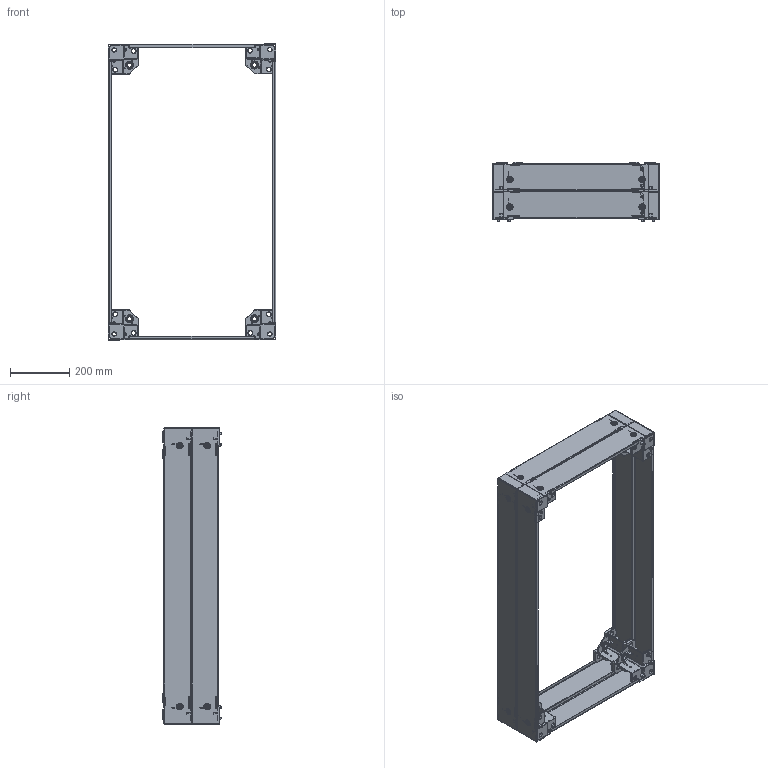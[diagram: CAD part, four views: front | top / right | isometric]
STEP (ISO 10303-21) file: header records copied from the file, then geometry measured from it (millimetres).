
FILE_DESCRIPTION (( 'STEP AP203' ), '1' );
FILE_NAME ('p2bp2106.STEP', '2018-03-05T14:57:29', ( '' ), ( '' ), 'SwSTEP 2.0', 'SolidWorks 2014', '' );
FILE_SCHEMA (( 'CONFIG_CONTROL_DESIGN' ));
Length unit declared in the file: millimetre
Products named in the file (4): 60127131_60127131; 89130122; 89130118; p2bp2106
Assembly tree (16 placements, depth 2):
  p2bp2106
    60127131_60127131  x8
    89130122  x4
    89130118  x4
Bounding box: 563.81 x 198.5 x 999.73 mm (x, y, z)
Volume: 2256964.1 mm3; surface area: 1906891.7 mm2
Topology: 16 solids, 16 shells, 5320 faces, 13240 edges, 7744 vertices
Faces by surface type: cylinder 1584, plane 1448, bspline 968, cone 752, torus 312, sphere 256
Entity records: 25350 total; most frequent: CARTESIAN_POINT 8615, ORIENTED_EDGE 3546, DIRECTION 3177, EDGE_CURVE 1773, AXIS2_PLACEMENT_3D 1202, VERTEX_POINT 1060, EDGE_LOOP 783, LINE 773
